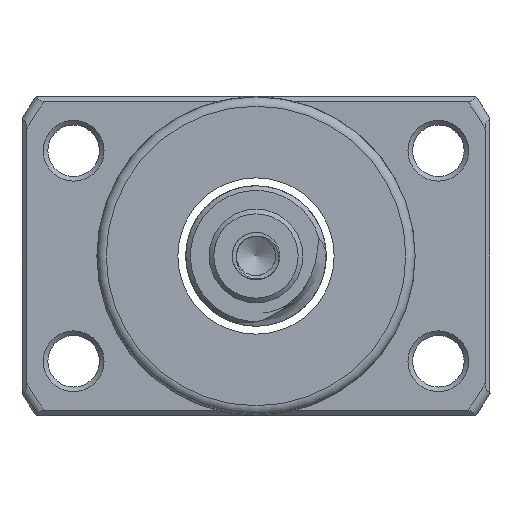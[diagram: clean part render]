
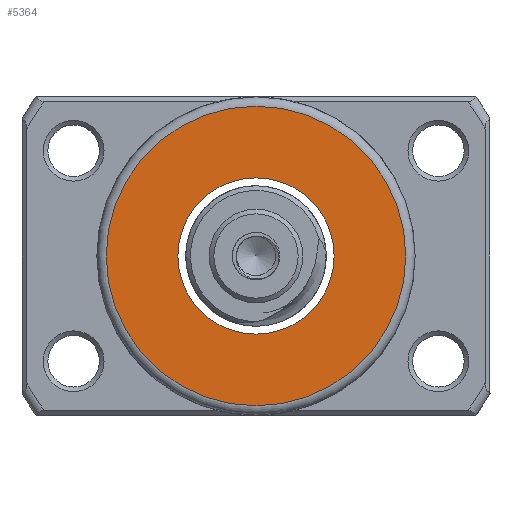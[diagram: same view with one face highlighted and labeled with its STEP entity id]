
A CAD part, left-side view. The second image highlights one B-rep face of the part: STEP entity #5364.
In plain terms, the highlighted planar face has unit normal (-1, 0, 0).
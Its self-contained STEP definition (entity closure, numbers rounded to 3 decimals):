
#68 = CIRCLE ( 'NONE', #1818, 8.35 ) ;
#396 = PLANE ( 'NONE',  #14992 ) ;
#1818 = AXIS2_PLACEMENT_3D ( 'NONE', #10189, #2291, #15370 ) ;
#2291 = DIRECTION ( 'NONE',  ( -1., 0., 0. ) ) ;
#2475 = CARTESIAN_POINT ( 'NONE',  ( -53.324, 0., 0. ) ) ;
#2709 = EDGE_CURVE ( 'NONE', #10861, #10861, #6846, .T. ) ;
#2898 = FACE_OUTER_BOUND ( 'NONE', #8802, .T. ) ;
#3932 = CARTESIAN_POINT ( 'NONE',  ( -53.324, 0., 8.35 ) ) ;
#4736 = DIRECTION ( 'NONE',  ( 0., 0., 1. ) ) ;
#5364 = ADVANCED_FACE ( 'NONE', ( #2898, #14652 ), #396, .T. ) ;
#6114 = AXIS2_PLACEMENT_3D ( 'NONE', #2475, #14163, #4736 ) ;
#6687 = EDGE_CURVE ( 'NONE', #9999, #9999, #68, .T. ) ;
#6846 = CIRCLE ( 'NONE', #6114, 16. ) ;
#7177 = ORIENTED_EDGE ( 'NONE', *, *, #2709, .T. ) ;
#8802 = EDGE_LOOP ( 'NONE', ( #7177 ) ) ;
#9999 = VERTEX_POINT ( 'NONE', #3932 ) ;
#10189 = CARTESIAN_POINT ( 'NONE',  ( -53.324, 0., 0. ) ) ;
#10861 = VERTEX_POINT ( 'NONE', #11176 ) ;
#11176 = CARTESIAN_POINT ( 'NONE',  ( -53.324, 0., 16. ) ) ;
#13517 = ORIENTED_EDGE ( 'NONE', *, *, #6687, .F. ) ;
#13717 = DIRECTION ( 'NONE',  ( -1., 0., 0. ) ) ;
#13793 = DIRECTION ( 'NONE',  ( 0., 0., 1. ) ) ;
#13936 = EDGE_LOOP ( 'NONE', ( #13517 ) ) ;
#14163 = DIRECTION ( 'NONE',  ( -1., 0., 0. ) ) ;
#14652 = FACE_BOUND ( 'NONE', #13936, .T. ) ;
#14808 = CARTESIAN_POINT ( 'NONE',  ( -53.324, 8.35, 0. ) ) ;
#14992 = AXIS2_PLACEMENT_3D ( 'NONE', #14808, #13717, #13793 ) ;
#15370 = DIRECTION ( 'NONE',  ( 0., 0., 1. ) ) ;
